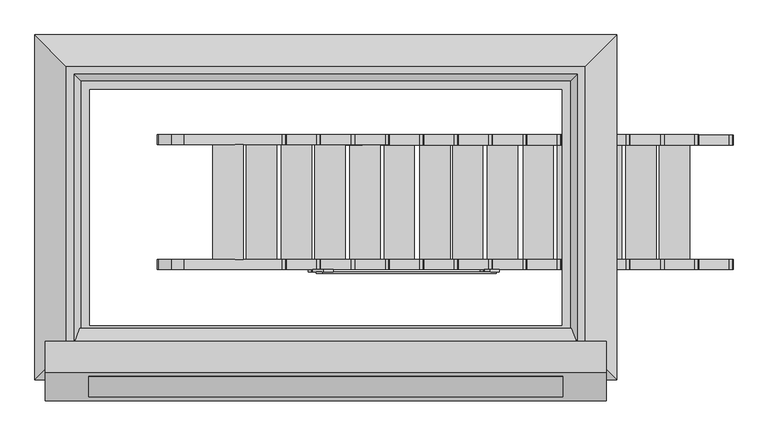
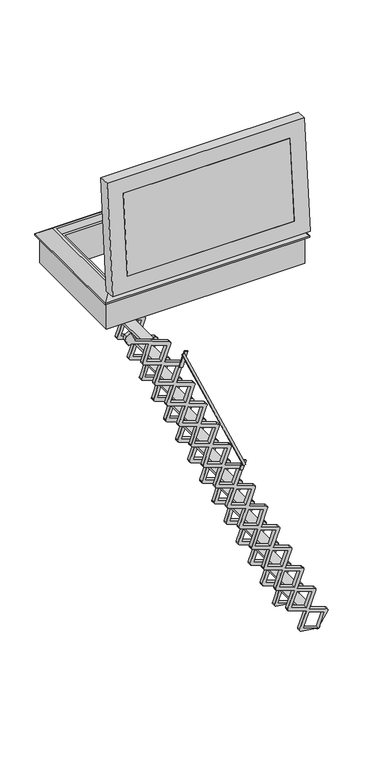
"""IFC4 building model written with IfcOpenShell, lengths in millimetres: proxy geometry, 3_Topaccess_dakluik_1400x700_Staka : 1400x 700 Scissor stair."""

from ifc_helpers import new_model, si_unit, point, frame, frame_2d, origin, place, context, project, spatial, polyline, circle_curve, trimmed, segment, composite_curve, outline, extrude, faceted_brep, source, transform, mapped, element, save


def generic_models_53a43412(model_context):
    return source(origin(), model_context, "Body", "SolidModel", [
        extrude(outline(polyline([(157.4162525, 319.5637489), (247.4162525, 319.5637489), (247.4162525, -20.4362511), (157.4162525, -20.4362511), (157.4162525, 319.5637489)])), frame((0.0, 0.0, -3347.829623), z_axis=(0.0, 0.0, 1.0), x_axis=(1.0, 0.0, 0.0)), (0.0, 0.0, 1.0), 20.0),
        extrude(outline(polyline([(58.100961, 319.5637489), (148.100961, 319.5637489), (148.100961, -20.4362511), (58.100961, -20.4362511), (58.100961, 319.5637489)])), frame((0.0, 0.0, -3134.8472931), z_axis=(0.0, 0.0, 1.0), x_axis=(1.0, 0.0, 0.0)), (0.0, 0.0, 1.0), 20.0),
        extrude(outline(polyline([(-43.3274218, 319.5637489), (46.6725782, 319.5637489), (46.6725782, -20.4362511), (-43.3274218, -20.4362511), (-43.3274218, 319.5637489)])), frame((0.0, 0.0, -2917.3334242), z_axis=(0.0, 0.0, 1.0), x_axis=(1.0, 0.0, 0.0)), (0.0, 0.0, 1.0), 20.0),
        extrude(outline(polyline([(-144.7558046, 319.5637489), (-54.7558046, 319.5637489), (-54.7558046, -20.4362511), (-144.7558046, -20.4362511), (-144.7558046, 319.5637489)])), frame((0.0, 0.0, -2699.8195553), z_axis=(0.0, 0.0, 1.0), x_axis=(1.0, 0.0, 0.0)), (0.0, 0.0, 1.0), 20.0),
        extrude(outline(polyline([(-246.1841874, 319.5637489), (-156.1841874, 319.5637489), (-156.1841874, -20.4362511), (-246.1841874, -20.4362511), (-246.1841874, 319.5637489)])), frame((0.0, 0.0, -2482.3056864), z_axis=(0.0, 0.0, 1.0), x_axis=(1.0, 0.0, 0.0)), (0.0, 0.0, 1.0), 20.0),
        extrude(outline(polyline([(-351.8387529, 319.5637489), (-261.8387529, 319.5637489), (-261.8387529, -20.4362511), (-351.8387529, -20.4362511), (-351.8387529, 319.5637489)])), frame((0.0, 0.0, -2255.7287396), z_axis=(0.0, 0.0, 1.0), x_axis=(1.0, 0.0, 0.0)), (0.0, 0.0, 1.0), 20.0),
        extrude(outline(polyline([(-455.380227, 319.5637489), (-365.380227, 319.5637489), (-365.380227, -20.4362511), (-455.380227, -20.4362511), (-455.380227, 319.5637489)])), frame((0.0, 0.0, -2033.6833318), z_axis=(0.0, 0.0, 1.0), x_axis=(1.0, 0.0, 0.0)), (0.0, 0.0, 1.0), 20.0),
        extrude(outline(polyline([(-552.5824272, 319.5637489), (-462.5824272, 319.5637489), (-462.5824272, -20.4362511), (-552.5824272, -20.4362511), (-552.5824272, 319.5637489)])), frame((0.0, 0.0, -1825.2325408), z_axis=(0.0, 0.0, 1.0), x_axis=(1.0, 0.0, 0.0)), (0.0, 0.0, 1.0), 20.0),
        extrude(outline(polyline([(-658.2369926, 319.5637489), (-568.2369926, 319.5637489), (-568.2369926, -20.4362511), (-658.2369926, -20.4362511), (-658.2369926, 319.5637489)])), frame((0.0, 0.0, -1598.655594), z_axis=(0.0, 0.0, 1.0), x_axis=(1.0, 0.0, 0.0)), (0.0, 0.0, 1.0), 20.0),
        extrude(outline(polyline([(-759.6653754, 319.5637489), (-669.6653754, 319.5637489), (-669.6653754, -20.4362511), (-759.6653754, -20.4362511), (-759.6653754, 319.5637489)])), frame((0.0, 0.0, -1381.1417252), z_axis=(0.0, 0.0, 1.0), x_axis=(1.0, 0.0, 0.0)), (0.0, 0.0, 1.0), 20.0),
        extrude(outline(polyline([(-863.2068496, 319.5637489), (-773.2068496, 319.5637489), (-773.2068496, -20.4362511), (-863.2068496, -20.4362511), (-863.2068496, 319.5637489)])), frame((0.0, 0.0, -1159.0963173), z_axis=(0.0, 0.0, 1.0), x_axis=(1.0, 0.0, 0.0)), (0.0, 0.0, 1.0), 20.0),
        extrude(outline(polyline([(-962.5221411, 319.5637489), (-872.5221411, 319.5637489), (-872.5221411, -20.4362511), (-962.5221411, -20.4362511), (-962.5221411, 319.5637489)])), frame((0.0, 0.0, -946.1139874), z_axis=(0.0, 0.0, 1.0), x_axis=(1.0, 0.0, 0.0)), (0.0, 0.0, 1.0), 20.0),
        extrude(outline(polyline([(-1165.3789067, 319.5637489), (-1075.3789067, 319.5637489), (-1075.3789067, -20.4362511), (-1165.3789067, -20.4362511), (-1165.3789067, 319.5637489)])), frame((0.0, 0.0, -511.0862496), z_axis=(0.0, 0.0, 1.0), x_axis=(1.0, 0.0, 0.0)), (0.0, 0.0, 1.0), 20.0),
        extrude(outline(polyline([(-1848.5794937, -325.9739408), (-679.4224194, -841.79284), (-687.8747846, -859.9189958), (-1857.031859, -344.1000966), (-1848.5794937, -325.9739408)])), frame((0.0, -61.8125013, 0.0), z_axis=(0.0, 1.0, 0.0), x_axis=(0.0, 0.0, 1.0)), (0.0, 0.0, 1.0), 4.2391265),
        extrude(outline(polyline([(-1818.2781029, -316.9787511), (-1808.0174986, -345.1695297), (-1852.2079918, -361.2535539), (-1859.1481195, -363.7795537), (-1884.6912157, -373.0764804), (-1894.95182, -344.8857018), (-1818.2781029, -316.9787511)])), frame((0.0, -57.5733748, 0.0), z_axis=(0.0, 1.0, 0.0), x_axis=(0.0, 0.0, 1.0)), (0.0, 0.0, 1.0), 7.1371237),
        extrude(outline(polyline([(-675.6712162, -808.5021805), (-665.4106119, -836.6929592), (-759.322906, -870.8742389), (-766.2630337, -873.4002387), (-791.8061299, -882.6971654), (-802.0667342, -854.5063868), (-675.6712162, -808.5021805)])), frame((0.0, -57.5733748, 0.0), z_axis=(0.0, 1.0, 0.0), x_axis=(0.0, 0.0, 1.0)), (0.0, 0.0, 1.0), 7.1371237),
        extrude(outline(polyline([(-1066.0636152, 319.5637489), (-976.0636152, 319.5637489), (-976.0636152, -20.4362511), (-1066.0636152, -20.4362511), (-1066.0636152, 319.5637489)])), frame((0.0, 0.0, -724.0685796), z_axis=(0.0, 0.0, 1.0), x_axis=(1.0, 0.0, 0.0)), (0.0, 0.0, 1.0), 20.0),
        extrude(outline(composite_curve([segment(polyline([(-399.9923074, -1331.2697623), (-459.6764529, -1303.4385882), (-448.5210209, -1279.5156871), (-505.7459893, -1133.1947877), (-651.1637299, -1186.1225168)]), True, "CONTINUOUS"), segment(trimmed(circle_curve(frame_2d((-657.6170384, -1168.3921976)), 18.8682116), [point((-651.1637299, -1186.1225168))], [point((-662.9064638, -1186.5038344))], False, "CARTESIAN"), True, "CONTINUOUS"), segment(trimmed(circle_curve(frame_2d((-653.5752288, -1170.1045216)), 18.8682116), [point((-662.9064638, -1186.5038344))], [point((-671.305548, -1176.55783))], False, "CARTESIAN"), True, "CONTINUOUS"), segment(polyline([(-671.305548, -1176.55783), (-724.2432758, -1031.1126182), (-869.8961323, -1084.1259225)]), True, "CONTINUOUS"), segment(trimmed(circle_curve(frame_2d((-876.3494407, -1066.3956033)), 18.8682116), [point((-869.8961323, -1084.1259225))], [point((-881.6388662, -1084.5072401))], False, "CARTESIAN"), True, "CONTINUOUS"), segment(trimmed(circle_curve(frame_2d((-872.3076312, -1068.1079273)), 18.8682116), [point((-881.6388662, -1084.5072401))], [point((-890.0379504, -1074.5612357))], False, "CARTESIAN"), True, "CONTINUOUS"), segment(polyline([(-890.0379504, -1074.5612357), (-942.890103, -929.3511398), (-1088.3078436, -982.2788689)]), True, "CONTINUOUS"), segment(trimmed(circle_curve(frame_2d((-1094.761152, -964.5485497)), 18.8682116), [point((-1088.3078436, -982.2788689))], [point((-1100.0505775, -982.6601865))], False, "CARTESIAN"), True, "CONTINUOUS"), segment(trimmed(circle_curve(frame_2d((-1090.7193424, -966.2608737)), 18.8682116), [point((-1100.0505775, -982.6601865))], [point((-1108.4496616, -972.7141821))], False, "CARTESIAN"), True, "CONTINUOUS"), segment(polyline([(-1108.4496616, -972.7141821), (-1161.3873894, -827.2689703), (-1307.0402459, -880.2822746)]), True, "CONTINUOUS"), segment(trimmed(circle_curve(frame_2d((-1313.4935544, -862.5519554)), 18.8682116), [point((-1307.0402459, -880.2822746))], [point((-1318.7829798, -880.6635922))], False, "CARTESIAN"), True, "CONTINUOUS"), segment(trimmed(circle_curve(frame_2d((-1309.4517448, -864.2642794)), 18.8682116), [point((-1318.7829798, -880.6635922))], [point((-1327.182064, -870.7175878))], False, "CARTESIAN"), True, "CONTINUOUS"), segment(polyline([(-1327.182064, -870.7175878), (-1380.0342166, -725.5074919), (-1525.4519572, -778.435221)]), True, "CONTINUOUS"), segment(trimmed(circle_curve(frame_2d((-1531.9052656, -760.7049018)), 18.8682116), [point((-1525.4519572, -778.435221))], [point((-1537.1946911, -778.8165386))], False, "CARTESIAN"), True, "CONTINUOUS"), segment(trimmed(circle_curve(frame_2d((-1527.863456, -762.4172258)), 18.8682116), [point((-1537.1946911, -778.8165386))], [point((-1545.5937752, -768.8705342))], False, "CARTESIAN"), True, "CONTINUOUS"), segment(polyline([(-1545.5937752, -768.8705342), (-1598.5809089, -623.2895809), (-1744.3695069, -676.3522911)]), True, "CONTINUOUS"), segment(trimmed(circle_curve(frame_2d((-1750.8228153, -658.6219719)), 18.8682116), [point((-1744.3695069, -676.3522911))], [point((-1756.1122408, -676.7336086))], False, "CARTESIAN"), True, "CONTINUOUS"), segment(trimmed(circle_curve(frame_2d((-1746.7810058, -660.3342958)), 18.8682116), [point((-1756.1122408, -676.7336086))], [point((-1764.5113249, -666.7876043))], False, "CARTESIAN"), True, "CONTINUOUS"), segment(polyline([(-1764.5113249, -666.7876043), (-1817.3634776, -521.5775084), (-1962.7812181, -574.5052375)]), True, "CONTINUOUS"), segment(trimmed(circle_curve(frame_2d((-1969.2345266, -556.7749183)), 18.8682116), [point((-1962.7812181, -574.5052375))], [point((-1974.523952, -574.8865551))], False, "CARTESIAN"), True, "CONTINUOUS"), segment(trimmed(circle_curve(frame_2d((-1965.192717, -558.4872423)), 18.8682116), [point((-1974.523952, -574.8865551))], [point((-1982.9230362, -564.9405507))], False, "CARTESIAN"), True, "CONTINUOUS"), segment(polyline([(-1982.9230362, -564.9405507), (-2035.860764, -419.4953389), (-2181.5136205, -472.5086432)]), True, "CONTINUOUS"), segment(trimmed(circle_curve(frame_2d((-2187.966929, -454.778324)), 18.8682116), [point((-2181.5136205, -472.5086432))], [point((-2193.2563544, -472.8899607))], False, "CARTESIAN"), True, "CONTINUOUS"), segment(trimmed(circle_curve(frame_2d((-2183.9251194, -456.4906479)), 18.8682116), [point((-2193.2563544, -472.8899607))], [point((-2201.6554386, -462.9439564))], False, "CARTESIAN"), True, "CONTINUOUS"), segment(polyline([(-2201.6554386, -462.9439564), (-2254.5075912, -317.7338605), (-2399.9253318, -370.6615896)]), True, "CONTINUOUS"), segment(trimmed(circle_curve(frame_2d((-2406.3786402, -352.9312704)), 18.8682116), [point((-2399.9253318, -370.6615896))], [point((-2411.6680657, -371.0429072))], False, "CARTESIAN"), True, "CONTINUOUS"), segment(trimmed(circle_curve(frame_2d((-2402.3368306, -354.6435944)), 18.8682116), [point((-2411.6680657, -371.0429072))], [point((-2420.0671498, -361.0969028))], False, "CARTESIAN"), True, "CONTINUOUS"), segment(polyline([(-2420.0671498, -361.0969028), (-2473.0048776, -215.651691), (-2618.6577342, -268.6649953)]), True, "CONTINUOUS"), segment(trimmed(circle_curve(frame_2d((-2625.1110426, -250.9346761)), 18.8682116), [point((-2618.6577342, -268.6649953))], [point((-2630.4004681, -269.0463128))], False, "CARTESIAN"), True, "CONTINUOUS"), segment(trimmed(circle_curve(frame_2d((-2621.069233, -252.6470001)), 18.8682116), [point((-2630.4004681, -269.0463128))], [point((-2638.7995522, -259.1003085))], False, "CARTESIAN"), True, "CONTINUOUS"), segment(polyline([(-2638.7995522, -259.1003085), (-2691.6517048, -113.8902126), (-2837.0694454, -166.8179417)]), True, "CONTINUOUS"), segment(trimmed(circle_curve(frame_2d((-2843.5227538, -149.0876225)), 18.8682116), [point((-2837.0694454, -166.8179417))], [point((-2848.8121793, -167.1992593))], False, "CARTESIAN"), True, "CONTINUOUS"), segment(trimmed(circle_curve(frame_2d((-2839.4809442, -150.7999465)), 18.8682116), [point((-2848.8121793, -167.1992593))], [point((-2857.2112634, -157.2532549))], False, "CARTESIAN"), True, "CONTINUOUS"), segment(polyline([(-2857.2112634, -157.2532549), (-2910.1489912, -11.8080431), (-3055.8018478, -64.8213474)]), True, "CONTINUOUS"), segment(trimmed(circle_curve(frame_2d((-3062.2551562, -47.0910282)), 18.8682116), [point((-3055.8018478, -64.8213474))], [point((-3067.5445817, -65.2026649))], False, "CARTESIAN"), True, "CONTINUOUS"), segment(trimmed(circle_curve(frame_2d((-3058.2133466, -48.8033522)), 18.8682116), [point((-3067.5445817, -65.2026649))], [point((-3075.9436658, -55.2566606))], False, "CARTESIAN"), True, "CONTINUOUS"), segment(polyline([(-3075.9436658, -55.2566606), (-3128.7958184, 89.9534353), (-3274.213559, 37.0257062)]), True, "CONTINUOUS"), segment(trimmed(circle_curve(frame_2d((-3280.6668674, 54.7560254)), 18.8682116), [point((-3274.213559, 37.0257062))], [point((-3285.9562929, 36.6443886))], False, "CARTESIAN"), True, "CONTINUOUS"), segment(trimmed(circle_curve(frame_2d((-3276.6250579, 53.0437014)), 18.8682116), [point((-3285.9562929, 36.6443886))], [point((-3294.355377, 46.590393))], False, "CARTESIAN"), True, "CONTINUOUS"), segment(polyline([(-3294.355377, 46.590393), (-3347.3308931, 192.1394272), (-3492.8799273, 139.1639111)]), True, "CONTINUOUS"), segment(trimmed(circle_curve(frame_2d((-3499.3332357, 156.8942303)), 18.8682116), [point((-3492.8799273, 139.1639111))], [point((-3505.8978359, 139.2048145))], False, "CARTESIAN"), True, "CONTINUOUS"), segment(trimmed(circle_curve(frame_2d((-3495.4234944, 154.8986852)), 18.8682116), [point((-3505.8978359, 139.2048145))], [point((-3513.1538135, 148.4453767))], False, "CARTESIAN"), True, "CONTINUOUS"), segment(polyline([(-3513.1538135, 148.4453767), (-3529.9146243, 277.1930025)]), True, "CONTINUOUS"), segment(trimmed(circle_curve(frame_2d((-3523.5753503, 290.7876193)), 15.0), [point((-3529.9146243, 277.1930025))], [point((-3535.6181892, 299.7302157))], False, "CARTESIAN"), True, "CONTINUOUS"), segment(trimmed(circle_curve(frame_2d((-3523.5753503, 290.7876193)), 15.0), [point((-3535.6181892, 299.7302157))], [point((-3517.0955362, 304.3158124))], False, "CARTESIAN"), True, "CONTINUOUS"), segment(polyline([(-3517.0955362, 304.3158124), (-3407.8654274, 375.0348446)]), True, "CONTINUOUS"), segment(trimmed(circle_curve(frame_2d((-3400.8799024, 356.8502773)), 19.4801449), [point((-3407.8654274, 375.0348446))], [point((-3394.9966002, 375.4207593))], False, "CARTESIAN"), True, "CONTINUOUS"), segment(trimmed(circle_curve(frame_2d((-3405.5505363, 359.0532978)), 19.4750959), [point((-3394.9966002, 375.4207593))], [point((-3387.1203401, 365.3467253))], False, "CARTESIAN"), True, "CONTINUOUS"), segment(polyline([(-3387.1203401, 365.3467253), (-3334.5679301, 219.5096897), (-3189.0702414, 272.9944476)]), True, "CONTINUOUS"), segment(trimmed(circle_curve(frame_2d((-3182.0445847, 254.830761)), 19.4750959), [point((-3189.0702414, 272.9944476))], [point((-3176.2903212, 273.4363465))], False, "CARTESIAN"), True, "CONTINUOUS"), segment(trimmed(circle_curve(frame_2d((-3186.734422, 256.9925998)), 19.4801449), [point((-3176.2903212, 273.4363465))], [point((-3168.3140263, 263.3301917))], False, "CARTESIAN"), True, "CONTINUOUS"), segment(polyline([(-3168.3140263, 263.3301917), (-3116.1562188, 117.6626362), (-2970.6585301, 171.147394)]), True, "CONTINUOUS"), segment(trimmed(circle_curve(frame_2d((-2963.6328735, 152.9837074)), 19.4750959), [point((-2970.6585301, 171.147394))], [point((-2957.87861, 171.589293))], False, "CARTESIAN"), True, "CONTINUOUS"), segment(trimmed(circle_curve(frame_2d((-2968.3227108, 155.1455462)), 19.4801449), [point((-2957.87861, 171.589293))], [point((-2949.9023151, 161.4831381))], False, "CARTESIAN"), True, "CONTINUOUS"), segment(polyline([(-2949.9023151, 161.4831381), (-2897.6598903, 15.5792614), (-2751.9261277, 69.1507997)]), True, "CONTINUOUS"), segment(trimmed(circle_curve(frame_2d((-2744.9004711, 50.9871131)), 19.4750959), [point((-2751.9261277, 69.1507997))], [point((-2739.1462076, 69.5926986))], False, "CARTESIAN"), True, "CONTINUOUS"), segment(trimmed(circle_curve(frame_2d((-2749.5903084, 53.1489519)), 19.4801449), [point((-2739.1462076, 69.5926986))], [point((-2731.1699127, 59.4865438))], False, "CARTESIAN"), True, "CONTINUOUS"), segment(polyline([(-2731.1699127, 59.4865438), (-2679.0121052, -86.1810117), (-2533.5144165, -32.6962539)]), True, "CONTINUOUS"), segment(trimmed(circle_curve(frame_2d((-2526.4887599, -50.8599405)), 19.4750959), [point((-2533.5144165, -32.6962539))], [point((-2520.7344964, -32.2543549))], False, "CARTESIAN"), True, "CONTINUOUS"), segment(trimmed(circle_curve(frame_2d((-2531.1785971, -48.6981017)), 19.4801449), [point((-2520.7344964, -32.2543549))], [point((-2512.7582015, -42.3605098))], False, "CARTESIAN"), True, "CONTINUOUS"), segment(polyline([(-2512.7582015, -42.3605098), (-2460.5157767, -188.2643865), (-2314.7820141, -134.6928482)]), True, "CONTINUOUS"), segment(trimmed(circle_curve(frame_2d((-2307.7563575, -152.8565348)), 19.4750959), [point((-2314.7820141, -134.6928482))], [point((-2302.002094, -134.2509493))], False, "CARTESIAN"), True, "CONTINUOUS"), segment(trimmed(circle_curve(frame_2d((-2312.4461947, -150.694696)), 19.4801449), [point((-2302.002094, -134.2509493))], [point((-2294.0257991, -144.3571041))], False, "CARTESIAN"), True, "CONTINUOUS"), segment(polyline([(-2294.0257991, -144.3571041), (-2241.8679916, -290.0246596), (-2096.3703029, -236.5399018)]), True, "CONTINUOUS"), segment(trimmed(circle_curve(frame_2d((-2089.3446463, -254.7035884)), 19.4750959), [point((-2096.3703029, -236.5399018))], [point((-2083.5903828, -236.0980028))], False, "CARTESIAN"), True, "CONTINUOUS"), segment(trimmed(circle_curve(frame_2d((-2094.0344835, -252.5417496)), 19.4801449), [point((-2083.5903828, -236.0980028))], [point((-2075.6140879, -246.2041576))], False, "CARTESIAN"), True, "CONTINUOUS"), segment(polyline([(-2075.6140879, -246.2041576), (-2023.3716631, -392.1080344), (-1877.6379005, -338.5364961)]), True, "CONTINUOUS"), segment(trimmed(circle_curve(frame_2d((-1870.6122439, -356.7001827)), 19.4750959), [point((-1877.6379005, -338.5364961))], [point((-1864.8579804, -338.0945972))], False, "CARTESIAN"), True, "CONTINUOUS"), segment(trimmed(circle_curve(frame_2d((-1875.3020811, -354.5383439)), 19.4801449), [point((-1864.8579804, -338.0945972))], [point((-1856.8816855, -348.200752))], False, "CARTESIAN"), True, "CONTINUOUS"), segment(polyline([(-1856.8816855, -348.200752), (-1804.723878, -493.8683075), (-1659.2261893, -440.3835497)]), True, "CONTINUOUS"), segment(trimmed(circle_curve(frame_2d((-1652.2005326, -458.5472363)), 19.4750959), [point((-1659.2261893, -440.3835497))], [point((-1646.4462691, -439.9416507))], False, "CARTESIAN"), True, "CONTINUOUS"), segment(trimmed(circle_curve(frame_2d((-1656.8903699, -456.3853975)), 19.4801449), [point((-1646.4462691, -439.9416507))], [point((-1638.4699743, -450.0478055))], False, "CARTESIAN"), True, "CONTINUOUS"), segment(polyline([(-1638.4699743, -450.0478055), (-1586.1786966, -596.0881196), (-1440.3086395, -542.4664796)]), True, "CONTINUOUS"), segment(trimmed(circle_curve(frame_2d((-1433.2829829, -560.6301662)), 19.4750959), [point((-1440.3086395, -542.4664796))], [point((-1427.5287194, -542.0245807))], False, "CARTESIAN"), True, "CONTINUOUS"), segment(trimmed(circle_curve(frame_2d((-1437.9728202, -558.4683274)), 19.4801449), [point((-1427.5287194, -542.0245807))], [point((-1419.5524245, -552.1307355))], False, "CARTESIAN"), True, "CONTINUOUS"), segment(polyline([(-1419.5524245, -552.1307355), (-1367.394617, -697.7982911), (-1221.8969283, -644.3135332)]), True, "CONTINUOUS"), segment(trimmed(circle_curve(frame_2d((-1214.8712717, -662.4772198)), 19.4750959), [point((-1221.8969283, -644.3135332))], [point((-1209.1170082, -643.8716343))], False, "CARTESIAN"), True, "CONTINUOUS"), segment(trimmed(circle_curve(frame_2d((-1219.5611089, -660.315381)), 19.4801449), [point((-1209.1170082, -643.8716343))], [point((-1201.1407133, -653.9777891))], False, "CARTESIAN"), True, "CONTINUOUS"), segment(polyline([(-1201.1407133, -653.9777891), (-1148.8982885, -799.8816658), (-1003.1645259, -746.3101275)]), True, "CONTINUOUS"), segment(trimmed(circle_curve(frame_2d((-996.1388693, -764.4738141)), 19.4750959), [point((-1003.1645259, -746.3101275))], [point((-990.3846058, -745.8682286))], False, "CARTESIAN"), True, "CONTINUOUS"), segment(trimmed(circle_curve(frame_2d((-1000.8287065, -762.3119753)), 19.4801449), [point((-990.3846058, -745.8682286))], [point((-982.4083109, -755.9743834))], False, "CARTESIAN"), True, "CONTINUOUS"), segment(polyline([(-982.4083109, -755.9743834), (-930.2505034, -901.641939), (-784.7528147, -848.1571811)]), True, "CONTINUOUS"), segment(trimmed(circle_curve(frame_2d((-777.7271581, -866.3208677)), 19.4750959), [point((-784.7528147, -848.1571811))], [point((-771.9728946, -847.7152822))], False, "CARTESIAN"), True, "CONTINUOUS"), segment(trimmed(circle_curve(frame_2d((-782.4169953, -864.1590289)), 19.4801449), [point((-771.9728946, -847.7152822))], [point((-763.9965997, -857.821437))], False, "CARTESIAN"), True, "CONTINUOUS"), segment(polyline([(-763.9965997, -857.821437), (-711.7541749, -1003.7253137), (-566.0204123, -950.1537754)]), True, "CONTINUOUS"), segment(trimmed(circle_curve(frame_2d((-558.9947557, -968.317462)), 19.4750959), [point((-566.0204123, -950.1537754))], [point((-553.2404922, -949.7118765))], False, "CARTESIAN"), True, "CONTINUOUS"), segment(trimmed(circle_curve(frame_2d((-563.6845929, -966.1556232)), 19.4801449), [point((-553.2404922, -949.7118765))], [point((-545.2641973, -959.8180313))], False, "CARTESIAN"), True, "CONTINUOUS"), segment(polyline([(-545.2641973, -959.8180313), (-431.6586243, -1250.3008412), (-353.0526957, -1286.9553876), (-371.3628379, -1326.2216144), (-399.9923074, -1331.2697623)]), True, "CONTINUOUS")], self_intersect=False), holes=[polyline([(-3410.9507418, 341.2410938), (-3534.9708957, 296.1014494), (-3489.8312512, 172.0812955), (-3365.8110974, 217.2209399), (-3410.9507418, 341.2410938)]), polyline([(-3192.2183394, 239.2444995), (-3316.2384933, 194.104855), (-3271.0988488, 70.0847012), (-3147.078695, 115.2243456), (-3192.2183394, 239.2444995)]), polyline([(-2973.8066282, 137.3974459), (-3097.8267821, 92.2578015), (-3052.6871376, -31.7623524), (-2928.6669837, 13.377292), (-2973.8066282, 137.3974459)]), polyline([(-2755.0742258, 35.4008516), (-2879.0943797, -9.7387929), (-2833.9547352, -133.7589467), (-2709.9345814, -88.6193023), (-2755.0742258, 35.4008516)]), polyline([(-2536.6625146, -66.446202), (-2660.6826685, -111.5858464), (-2615.543024, -235.6060003), (-2491.5228701, -190.4663558), (-2536.6625146, -66.446202)]), polyline([(-2317.9301122, -168.4427963), (-2441.9502661, -213.5824408), (-2396.8106216, -337.6025946), (-2272.7904677, -292.4629502), (-2317.9301122, -168.4427963)]), polyline([(-2099.518401, -270.2898499), (-2223.5385548, -315.4294943), (-2178.3989104, -439.4496482), (-2054.3787565, -394.3100037), (-2099.518401, -270.2898499)]), polyline([(-1880.7859986, -372.2864442), (-2004.8061524, -417.4260887), (-1959.666508, -541.4462425), (-1835.6463541, -496.3065981), (-1880.7859986, -372.2864442)]), polyline([(-1662.3742873, -474.1334978), (-1786.3944412, -519.2731422), (-1741.2547968, -643.2932961), (-1617.2346429, -598.1536516), (-1662.3742873, -474.1334978)]), polyline([(-1443.4567376, -576.2164277), (-1567.4768915, -621.3560722), (-1522.337247, -745.3762261), (-1398.3170931, -700.2365816), (-1443.4567376, -576.2164277)]), polyline([(-1225.0450264, -678.0634813), (-1349.0651802, -723.2031258), (-1303.9255358, -847.2232796), (-1179.9053819, -802.0836352), (-1225.0450264, -678.0634813)]), polyline([(-1006.312624, -780.0600756), (-1130.3327779, -825.1997201), (-1085.1931334, -949.219874), (-961.1729795, -904.0802295), (-1006.312624, -780.0600756)]), polyline([(-787.9009128, -881.9071292), (-911.9210666, -927.0467737), (-866.7814222, -1051.0669275), (-742.7612683, -1005.9272831), (-787.9009128, -881.9071292)]), polyline([(-569.1685104, -983.9037235), (-693.1886642, -1029.043368), (-648.0490198, -1153.0635219), (-524.0288659, -1107.9238774), (-569.1685104, -983.9037235)])]), frame((0.0, -50.4362511, 0.0), z_axis=(0.0, 1.0, 0.0), x_axis=(0.0, 0.0, 1.0)), (0.0, 0.0, 1.0), 30.0),
        extrude(outline(composite_curve([segment(polyline([(-399.9923074, -1331.2697623), (-459.6764529, -1303.4385882), (-448.5210209, -1279.5156871), (-505.7459893, -1133.1947877), (-651.1637299, -1186.1225168)]), True, "CONTINUOUS"), segment(trimmed(circle_curve(frame_2d((-657.6170384, -1168.3921976)), 18.8682116), [point((-651.1637299, -1186.1225168))], [point((-662.9064638, -1186.5038344))], False, "CARTESIAN"), True, "CONTINUOUS"), segment(trimmed(circle_curve(frame_2d((-653.5752288, -1170.1045216)), 18.8682116), [point((-662.9064638, -1186.5038344))], [point((-671.305548, -1176.55783))], False, "CARTESIAN"), True, "CONTINUOUS"), segment(polyline([(-671.305548, -1176.55783), (-724.2432758, -1031.1126182), (-869.8961323, -1084.1259225)]), True, "CONTINUOUS"), segment(trimmed(circle_curve(frame_2d((-876.3494407, -1066.3956033)), 18.8682116), [point((-869.8961323, -1084.1259225))], [point((-881.6388662, -1084.5072401))], False, "CARTESIAN"), True, "CONTINUOUS"), segment(trimmed(circle_curve(frame_2d((-872.3076312, -1068.1079273)), 18.8682116), [point((-881.6388662, -1084.5072401))], [point((-890.0379504, -1074.5612357))], False, "CARTESIAN"), True, "CONTINUOUS"), segment(polyline([(-890.0379504, -1074.5612357), (-942.890103, -929.3511398), (-1088.3078436, -982.2788689)]), True, "CONTINUOUS"), segment(trimmed(circle_curve(frame_2d((-1094.761152, -964.5485497)), 18.8682116), [point((-1088.3078436, -982.2788689))], [point((-1100.0505775, -982.6601865))], False, "CARTESIAN"), True, "CONTINUOUS"), segment(trimmed(circle_curve(frame_2d((-1090.7193424, -966.2608737)), 18.8682116), [point((-1100.0505775, -982.6601865))], [point((-1108.4496616, -972.7141821))], False, "CARTESIAN"), True, "CONTINUOUS"), segment(polyline([(-1108.4496616, -972.7141821), (-1161.3873894, -827.2689703), (-1307.0402459, -880.2822746)]), True, "CONTINUOUS"), segment(trimmed(circle_curve(frame_2d((-1313.4935544, -862.5519554)), 18.8682116), [point((-1307.0402459, -880.2822746))], [point((-1318.7829798, -880.6635922))], False, "CARTESIAN"), True, "CONTINUOUS"), segment(trimmed(circle_curve(frame_2d((-1309.4517448, -864.2642794)), 18.8682116), [point((-1318.7829798, -880.6635922))], [point((-1327.182064, -870.7175878))], False, "CARTESIAN"), True, "CONTINUOUS"), segment(polyline([(-1327.182064, -870.7175878), (-1380.0342166, -725.5074919), (-1525.4519572, -778.435221)]), True, "CONTINUOUS"), segment(trimmed(circle_curve(frame_2d((-1531.9052656, -760.7049018)), 18.8682116), [point((-1525.4519572, -778.435221))], [point((-1537.1946911, -778.8165386))], False, "CARTESIAN"), True, "CONTINUOUS"), segment(trimmed(circle_curve(frame_2d((-1527.863456, -762.4172258)), 18.8682116), [point((-1537.1946911, -778.8165386))], [point((-1545.5937752, -768.8705342))], False, "CARTESIAN"), True, "CONTINUOUS"), segment(polyline([(-1545.5937752, -768.8705342), (-1598.5809089, -623.2895809), (-1744.3695069, -676.3522911)]), True, "CONTINUOUS"), segment(trimmed(circle_curve(frame_2d((-1750.8228153, -658.6219719)), 18.8682116), [point((-1744.3695069, -676.3522911))], [point((-1756.1122408, -676.7336086))], False, "CARTESIAN"), True, "CONTINUOUS"), segment(trimmed(circle_curve(frame_2d((-1746.7810058, -660.3342958)), 18.8682116), [point((-1756.1122408, -676.7336086))], [point((-1764.5113249, -666.7876043))], False, "CARTESIAN"), True, "CONTINUOUS"), segment(polyline([(-1764.5113249, -666.7876043), (-1817.3634776, -521.5775084), (-1962.7812181, -574.5052375)]), True, "CONTINUOUS"), segment(trimmed(circle_curve(frame_2d((-1969.2345266, -556.7749183)), 18.8682116), [point((-1962.7812181, -574.5052375))], [point((-1974.523952, -574.8865551))], False, "CARTESIAN"), True, "CONTINUOUS"), segment(trimmed(circle_curve(frame_2d((-1965.192717, -558.4872423)), 18.8682116), [point((-1974.523952, -574.8865551))], [point((-1982.9230362, -564.9405507))], False, "CARTESIAN"), True, "CONTINUOUS"), segment(polyline([(-1982.9230362, -564.9405507), (-2035.860764, -419.4953389), (-2181.5136205, -472.5086432)]), True, "CONTINUOUS"), segment(trimmed(circle_curve(frame_2d((-2187.966929, -454.778324)), 18.8682116), [point((-2181.5136205, -472.5086432))], [point((-2193.2563544, -472.8899607))], False, "CARTESIAN"), True, "CONTINUOUS"), segment(trimmed(circle_curve(frame_2d((-2183.9251194, -456.4906479)), 18.8682116), [point((-2193.2563544, -472.8899607))], [point((-2201.6554386, -462.9439564))], False, "CARTESIAN"), True, "CONTINUOUS"), segment(polyline([(-2201.6554386, -462.9439564), (-2254.5075912, -317.7338605), (-2399.9253318, -370.6615896)]), True, "CONTINUOUS"), segment(trimmed(circle_curve(frame_2d((-2406.3786402, -352.9312704)), 18.8682116), [point((-2399.9253318, -370.6615896))], [point((-2411.6680657, -371.0429072))], False, "CARTESIAN"), True, "CONTINUOUS"), segment(trimmed(circle_curve(frame_2d((-2402.3368306, -354.6435944)), 18.8682116), [point((-2411.6680657, -371.0429072))], [point((-2420.0671498, -361.0969028))], False, "CARTESIAN"), True, "CONTINUOUS"), segment(polyline([(-2420.0671498, -361.0969028), (-2473.0048776, -215.651691), (-2618.6577342, -268.6649953)]), True, "CONTINUOUS"), segment(trimmed(circle_curve(frame_2d((-2625.1110426, -250.9346761)), 18.8682116), [point((-2618.6577342, -268.6649953))], [point((-2630.4004681, -269.0463128))], False, "CARTESIAN"), True, "CONTINUOUS"), segment(trimmed(circle_curve(frame_2d((-2621.069233, -252.6470001)), 18.8682116), [point((-2630.4004681, -269.0463128))], [point((-2638.7995522, -259.1003085))], False, "CARTESIAN"), True, "CONTINUOUS"), segment(polyline([(-2638.7995522, -259.1003085), (-2691.6517048, -113.8902126), (-2837.0694454, -166.8179417)]), True, "CONTINUOUS"), segment(trimmed(circle_curve(frame_2d((-2843.5227538, -149.0876225)), 18.8682116), [point((-2837.0694454, -166.8179417))], [point((-2848.8121793, -167.1992593))], False, "CARTESIAN"), True, "CONTINUOUS"), segment(trimmed(circle_curve(frame_2d((-2839.4809442, -150.7999465)), 18.8682116), [point((-2848.8121793, -167.1992593))], [point((-2857.2112634, -157.2532549))], False, "CARTESIAN"), True, "CONTINUOUS"), segment(polyline([(-2857.2112634, -157.2532549), (-2910.1489912, -11.8080431), (-3055.8018478, -64.8213474)]), True, "CONTINUOUS"), segment(trimmed(circle_curve(frame_2d((-3062.2551562, -47.0910282)), 18.8682116), [point((-3055.8018478, -64.8213474))], [point((-3067.5445817, -65.2026649))], False, "CARTESIAN"), True, "CONTINUOUS"), segment(trimmed(circle_curve(frame_2d((-3058.2133466, -48.8033522)), 18.8682116), [point((-3067.5445817, -65.2026649))], [point((-3075.9436658, -55.2566606))], False, "CARTESIAN"), True, "CONTINUOUS"), segment(polyline([(-3075.9436658, -55.2566606), (-3128.7958184, 89.9534353), (-3274.213559, 37.0257062)]), True, "CONTINUOUS"), segment(trimmed(circle_curve(frame_2d((-3280.6668674, 54.7560254)), 18.8682116), [point((-3274.213559, 37.0257062))], [point((-3285.9562929, 36.6443886))], False, "CARTESIAN"), True, "CONTINUOUS"), segment(trimmed(circle_curve(frame_2d((-3276.6250579, 53.0437014)), 18.8682116), [point((-3285.9562929, 36.6443886))], [point((-3294.355377, 46.590393))], False, "CARTESIAN"), True, "CONTINUOUS"), segment(polyline([(-3294.355377, 46.590393), (-3347.3308931, 192.1394272), (-3492.8799273, 139.1639111)]), True, "CONTINUOUS"), segment(trimmed(circle_curve(frame_2d((-3499.3332357, 156.8942303)), 18.8682116), [point((-3492.8799273, 139.1639111))], [point((-3505.8978359, 139.2048145))], False, "CARTESIAN"), True, "CONTINUOUS"), segment(trimmed(circle_curve(frame_2d((-3495.4234944, 154.8986852)), 18.8682116), [point((-3505.8978359, 139.2048145))], [point((-3513.1538135, 148.4453767))], False, "CARTESIAN"), True, "CONTINUOUS"), segment(polyline([(-3513.1538135, 148.4453767), (-3529.9146243, 277.1930025)]), True, "CONTINUOUS"), segment(trimmed(circle_curve(frame_2d((-3523.5753503, 290.7876193)), 15.0), [point((-3529.9146243, 277.1930025))], [point((-3535.6181892, 299.7302157))], False, "CARTESIAN"), True, "CONTINUOUS"), segment(trimmed(circle_curve(frame_2d((-3523.5753503, 290.7876193)), 15.0), [point((-3535.6181892, 299.7302157))], [point((-3517.0955362, 304.3158124))], False, "CARTESIAN"), True, "CONTINUOUS"), segment(polyline([(-3517.0955362, 304.3158124), (-3407.8654274, 375.0348446)]), True, "CONTINUOUS"), segment(trimmed(circle_curve(frame_2d((-3400.8799024, 356.8502773)), 19.4801449), [point((-3407.8654274, 375.0348446))], [point((-3394.9966002, 375.4207593))], False, "CARTESIAN"), True, "CONTINUOUS"), segment(trimmed(circle_curve(frame_2d((-3405.5505363, 359.0532978)), 19.4750959), [point((-3394.9966002, 375.4207593))], [point((-3387.1203401, 365.3467253))], False, "CARTESIAN"), True, "CONTINUOUS"), segment(polyline([(-3387.1203401, 365.3467253), (-3334.5679301, 219.5096897), (-3189.0702414, 272.9944476)]), True, "CONTINUOUS"), segment(trimmed(circle_curve(frame_2d((-3182.0445847, 254.830761)), 19.4750959), [point((-3189.0702414, 272.9944476))], [point((-3176.2903212, 273.4363465))], False, "CARTESIAN"), True, "CONTINUOUS"), segment(trimmed(circle_curve(frame_2d((-3186.734422, 256.9925998)), 19.4801449), [point((-3176.2903212, 273.4363465))], [point((-3168.3140263, 263.3301917))], False, "CARTESIAN"), True, "CONTINUOUS"), segment(polyline([(-3168.3140263, 263.3301917), (-3116.1562188, 117.6626362), (-2970.6585301, 171.147394)]), True, "CONTINUOUS"), segment(trimmed(circle_curve(frame_2d((-2963.6328735, 152.9837074)), 19.4750959), [point((-2970.6585301, 171.147394))], [point((-2957.87861, 171.589293))], False, "CARTESIAN"), True, "CONTINUOUS"), segment(trimmed(circle_curve(frame_2d((-2968.3227108, 155.1455462)), 19.4801449), [point((-2957.87861, 171.589293))], [point((-2949.9023151, 161.4831381))], False, "CARTESIAN"), True, "CONTINUOUS"), segment(polyline([(-2949.9023151, 161.4831381), (-2897.6598903, 15.5792614), (-2751.9261277, 69.1507997)]), True, "CONTINUOUS"), segment(trimmed(circle_curve(frame_2d((-2744.9004711, 50.9871131)), 19.4750959), [point((-2751.9261277, 69.1507997))], [point((-2739.1462076, 69.5926986))], False, "CARTESIAN"), True, "CONTINUOUS"), segment(trimmed(circle_curve(frame_2d((-2749.5903084, 53.1489519)), 19.4801449), [point((-2739.1462076, 69.5926986))], [point((-2731.1699127, 59.4865438))], False, "CARTESIAN"), True, "CONTINUOUS"), segment(polyline([(-2731.1699127, 59.4865438), (-2679.0121052, -86.1810117), (-2533.5144165, -32.6962539)]), True, "CONTINUOUS"), segment(trimmed(circle_curve(frame_2d((-2526.4887599, -50.8599405)), 19.4750959), [point((-2533.5144165, -32.6962539))], [point((-2520.7344964, -32.2543549))], False, "CARTESIAN"), True, "CONTINUOUS"), segment(trimmed(circle_curve(frame_2d((-2531.1785971, -48.6981017)), 19.4801449), [point((-2520.7344964, -32.2543549))], [point((-2512.7582015, -42.3605098))], False, "CARTESIAN"), True, "CONTINUOUS"), segment(polyline([(-2512.7582015, -42.3605098), (-2460.5157767, -188.2643865), (-2314.7820141, -134.6928482)]), True, "CONTINUOUS"), segment(trimmed(circle_curve(frame_2d((-2307.7563575, -152.8565348)), 19.4750959), [point((-2314.7820141, -134.6928482))], [point((-2302.002094, -134.2509493))], False, "CARTESIAN"), True, "CONTINUOUS"), segment(trimmed(circle_curve(frame_2d((-2312.4461947, -150.694696)), 19.4801449), [point((-2302.002094, -134.2509493))], [point((-2294.0257991, -144.3571041))], False, "CARTESIAN"), True, "CONTINUOUS"), segment(polyline([(-2294.0257991, -144.3571041), (-2241.8679916, -290.0246596), (-2096.3703029, -236.5399018)]), True, "CONTINUOUS"), segment(trimmed(circle_curve(frame_2d((-2089.3446463, -254.7035884)), 19.4750959), [point((-2096.3703029, -236.5399018))], [point((-2083.5903828, -236.0980028))], False, "CARTESIAN"), True, "CONTINUOUS"), segment(trimmed(circle_curve(frame_2d((-2094.0344835, -252.5417496)), 19.4801449), [point((-2083.5903828, -236.0980028))], [point((-2075.6140879, -246.2041576))], False, "CARTESIAN"), True, "CONTINUOUS"), segment(polyline([(-2075.6140879, -246.2041576), (-2023.3716631, -392.1080344), (-1877.6379005, -338.5364961)]), True, "CONTINUOUS"), segment(trimmed(circle_curve(frame_2d((-1870.6122439, -356.7001827)), 19.4750959), [point((-1877.6379005, -338.5364961))], [point((-1864.8579804, -338.0945972))], False, "CARTESIAN"), True, "CONTINUOUS"), segment(trimmed(circle_curve(frame_2d((-1875.3020811, -354.5383439)), 19.4801449), [point((-1864.8579804, -338.0945972))], [point((-1856.8816855, -348.200752))], False, "CARTESIAN"), True, "CONTINUOUS"), segment(polyline([(-1856.8816855, -348.200752), (-1804.723878, -493.8683075), (-1659.2261893, -440.3835497)]), True, "CONTINUOUS"), segment(trimmed(circle_curve(frame_2d((-1652.2005326, -458.5472363)), 19.4750959), [point((-1659.2261893, -440.3835497))], [point((-1646.4462691, -439.9416507))], False, "CARTESIAN"), True, "CONTINUOUS"), segment(trimmed(circle_curve(frame_2d((-1656.8903699, -456.3853975)), 19.4801449), [point((-1646.4462691, -439.9416507))], [point((-1638.4699743, -450.0478055))], False, "CARTESIAN"), True, "CONTINUOUS"), segment(polyline([(-1638.4699743, -450.0478055), (-1586.1786966, -596.0881196), (-1440.3086395, -542.4664796)]), True, "CONTINUOUS"), segment(trimmed(circle_curve(frame_2d((-1433.2829829, -560.6301662)), 19.4750959), [point((-1440.3086395, -542.4664796))], [point((-1427.5287194, -542.0245807))], False, "CARTESIAN"), True, "CONTINUOUS"), segment(trimmed(circle_curve(frame_2d((-1437.9728202, -558.4683274)), 19.4801449), [point((-1427.5287194, -542.0245807))], [point((-1419.5524245, -552.1307355))], False, "CARTESIAN"), True, "CONTINUOUS"), segment(polyline([(-1419.5524245, -552.1307355), (-1367.394617, -697.7982911), (-1221.8969283, -644.3135332)]), True, "CONTINUOUS"), segment(trimmed(circle_curve(frame_2d((-1214.8712717, -662.4772198)), 19.4750959), [point((-1221.8969283, -644.3135332))], [point((-1209.1170082, -643.8716343))], False, "CARTESIAN"), True, "CONTINUOUS"), segment(trimmed(circle_curve(frame_2d((-1219.5611089, -660.315381)), 19.4801449), [point((-1209.1170082, -643.8716343))], [point((-1201.1407133, -653.9777891))], False, "CARTESIAN"), True, "CONTINUOUS"), segment(polyline([(-1201.1407133, -653.9777891), (-1148.8982885, -799.8816658), (-1003.1645259, -746.3101275)]), True, "CONTINUOUS"), segment(trimmed(circle_curve(frame_2d((-996.1388693, -764.4738141)), 19.4750959), [point((-1003.1645259, -746.3101275))], [point((-990.3846058, -745.8682286))], False, "CARTESIAN"), True, "CONTINUOUS"), segment(trimmed(circle_curve(frame_2d((-1000.8287065, -762.3119753)), 19.4801449), [point((-990.3846058, -745.8682286))], [point((-982.4083109, -755.9743834))], False, "CARTESIAN"), True, "CONTINUOUS"), segment(polyline([(-982.4083109, -755.9743834), (-930.2505034, -901.641939), (-784.7528147, -848.1571811)]), True, "CONTINUOUS"), segment(trimmed(circle_curve(frame_2d((-777.7271581, -866.3208677)), 19.4750959), [point((-784.7528147, -848.1571811))], [point((-771.9728946, -847.7152822))], False, "CARTESIAN"), True, "CONTINUOUS"), segment(trimmed(circle_curve(frame_2d((-782.4169953, -864.1590289)), 19.4801449), [point((-771.9728946, -847.7152822))], [point((-763.9965997, -857.821437))], False, "CARTESIAN"), True, "CONTINUOUS"), segment(polyline([(-763.9965997, -857.821437), (-711.7541749, -1003.7253137), (-566.0204123, -950.1537754)]), True, "CONTINUOUS"), segment(trimmed(circle_curve(frame_2d((-558.9947557, -968.317462)), 19.4750959), [point((-566.0204123, -950.1537754))], [point((-553.2404922, -949.7118765))], False, "CARTESIAN"), True, "CONTINUOUS"), segment(trimmed(circle_curve(frame_2d((-563.6845929, -966.1556232)), 19.4801449), [point((-553.2404922, -949.7118765))], [point((-545.2641973, -959.8180313))], False, "CARTESIAN"), True, "CONTINUOUS"), segment(polyline([(-545.2641973, -959.8180313), (-431.6586243, -1250.3008412), (-353.0526957, -1286.9553876), (-371.3628379, -1326.2216144), (-399.9923074, -1331.2697623)]), True, "CONTINUOUS")], self_intersect=False), holes=[polyline([(-3410.9507418, 341.2410938), (-3534.9708957, 296.1014494), (-3489.8312512, 172.0812955), (-3365.8110974, 217.2209399), (-3410.9507418, 341.2410938)]), polyline([(-3192.2183394, 239.2444995), (-3316.2384933, 194.104855), (-3271.0988488, 70.0847012), (-3147.078695, 115.2243456), (-3192.2183394, 239.2444995)]), polyline([(-2973.8066282, 137.3974459), (-3097.8267821, 92.2578015), (-3052.6871376, -31.7623524), (-2928.6669837, 13.377292), (-2973.8066282, 137.3974459)]), polyline([(-2755.0742258, 35.4008516), (-2879.0943797, -9.7387929), (-2833.9547352, -133.7589467), (-2709.9345814, -88.6193023), (-2755.0742258, 35.4008516)]), polyline([(-2536.6625146, -66.446202), (-2660.6826685, -111.5858464), (-2615.543024, -235.6060003), (-2491.5228701, -190.4663558), (-2536.6625146, -66.446202)]), polyline([(-2317.9301122, -168.4427963), (-2441.9502661, -213.5824408), (-2396.8106216, -337.6025946), (-2272.7904677, -292.4629502), (-2317.9301122, -168.4427963)]), polyline([(-2099.518401, -270.2898499), (-2223.5385548, -315.4294943), (-2178.3989104, -439.4496482), (-2054.3787565, -394.3100037), (-2099.518401, -270.2898499)]), polyline([(-1880.7859986, -372.2864442), (-2004.8061524, -417.4260887), (-1959.666508, -541.4462425), (-1835.6463541, -496.3065981), (-1880.7859986, -372.2864442)]), polyline([(-1662.3742873, -474.1334978), (-1786.3944412, -519.2731422), (-1741.2547968, -643.2932961), (-1617.2346429, -598.1536516), (-1662.3742873, -474.1334978)]), polyline([(-1443.4567376, -576.2164277), (-1567.4768915, -621.3560722), (-1522.337247, -745.3762261), (-1398.3170931, -700.2365816), (-1443.4567376, -576.2164277)]), polyline([(-1225.0450264, -678.0634813), (-1349.0651802, -723.2031258), (-1303.9255358, -847.2232796), (-1179.9053819, -802.0836352), (-1225.0450264, -678.0634813)]), polyline([(-1006.312624, -780.0600756), (-1130.3327779, -825.1997201), (-1085.1931334, -949.219874), (-961.1729795, -904.0802295), (-1006.312624, -780.0600756)]), polyline([(-787.9009128, -881.9071292), (-911.9210666, -927.0467737), (-866.7814222, -1051.0669275), (-742.7612683, -1005.9272831), (-787.9009128, -881.9071292)]), polyline([(-569.1685104, -983.9037235), (-693.1886642, -1029.043368), (-648.0490198, -1153.0635219), (-524.0288659, -1107.9238774), (-569.1685104, -983.9037235)])]), frame((0.0, 319.5637489, 0.0), z_axis=(0.0, 1.0, 0.0), x_axis=(0.0, 0.0, 1.0)), (0.0, 0.0, 1.0), 30.0),
        extrude(outline(composite_curve([segment(polyline([(-337.9796219, 326.3276635), (-304.1131378, 313.8268133), (-350.9652664, 276.3451105), (-360.9083022, 288.7739053)]), True, "CONTINUOUS"), segment(trimmed(circle_curve(frame_2d((-355.6020334, 290.8827554)), 5.7099682), [point((-360.9083022, 288.7739053))], [point((-361.2421664, 291.7730571))], False, "CARTESIAN"), True, "CONTINUOUS"), segment(polyline([(-361.2421664, 291.7730571), (-353.9328322, 338.0782805)]), True, "CONTINUOUS"), segment(trimmed(circle_curve(frame_2d((-347.7421268, 335.4312659)), 6.7328687), [point((-353.9328322, 338.0782805))], [point((-341.0984298, 334.3391069))], False, "CARTESIAN"), True, "CONTINUOUS"), segment(trimmed(circle_curve(frame_2d((-332.7673504, 332.9695587)), 8.4428992), [point((-341.0984298, 334.3391069))], [point((-337.9796219, 326.3276635))], True, "CARTESIAN"), True, "CONTINUOUS")], self_intersect=False)), frame((-1499.5746478, 0.0, 0.0), z_axis=(1.0, 0.0, 0.0), x_axis=(0.0, 1.0, 0.0)), (0.0, 0.0, 1.0), 27.3677514),
        extrude(outline(composite_curve([segment(polyline([(-337.9796219, 326.3276635), (-304.1131378, 313.8268133), (-350.9652664, 276.3451105), (-360.9083022, 288.7739053)]), True, "CONTINUOUS"), segment(trimmed(circle_curve(frame_2d((-355.6020334, 290.8827554)), 5.7099682), [point((-360.9083022, 288.7739053))], [point((-361.2421664, 291.7730571))], False, "CARTESIAN"), True, "CONTINUOUS"), segment(polyline([(-361.2421664, 291.7730571), (-353.9328322, 338.0782805)]), True, "CONTINUOUS"), segment(trimmed(circle_curve(frame_2d((-347.7421268, 335.4312659)), 6.7328687), [point((-353.9328322, 338.0782805))], [point((-341.0984298, 334.3391069))], False, "CARTESIAN"), True, "CONTINUOUS"), segment(trimmed(circle_curve(frame_2d((-332.7673504, 332.9695587)), 8.4428992), [point((-341.0984298, 334.3391069))], [point((-337.9796219, 326.3276635))], True, "CARTESIAN"), True, "CONTINUOUS")], self_intersect=False)), frame((-182.3370746, 0.0, 0.0), z_axis=(1.0, 0.0, 0.0), x_axis=(0.0, 1.0, 0.0)), (0.0, 0.0, 1.0), 29.9861856),
        faceted_brep([(-61.2697623, 553.4470955, 328.0), (30.7302377, 645.4470955, 254.4), (-1693.2697623, 645.4470955, 254.4), (-1601.2697623, 553.4470955, 328.0), (-105.2697623, 509.4470955, 282.0), (-85.7439208, 528.9729371, 328.0), (-1576.7956039, 528.9729371, 328.0), (-1557.2697623, 509.4470955, 282.0), (-131.2697623, 483.4470955, 0.0), (-131.2697623, 483.4470955, 282.0), (-1531.2697623, 483.4470955, 282.0), (-1531.2697623, 483.4470955, 0.0), (4.7302377, 619.4470955, 240.0), (4.7302377, 619.4470955, 0.0), (-1667.2697623, 619.4470955, 0.0), (-1667.2697623, 619.4470955, 240.0), (30.7302377, 645.4470955, 240.0), (-1693.2697623, 645.4470955, 240.0), (-1693.2697623, -378.5529045, 254.4), (-1601.2697623, -286.5529045, 328.0), (-1576.7956039, -262.078746, 328.0), (-1557.2697623, -242.5529045, 282.0), (-1531.2697623, -216.5529045, 282.0), (-1531.2697623, -216.5529045, 0.0), (-1667.2697623, -352.5529045, 0.0), (-1667.2697623, -352.5529045, 240.0), (-1693.2697623, -378.5529045, 240.0), (30.7302377, -378.5529045, 254.4), (-61.2697623, -286.5529045, 328.0), (-85.7439208, -262.078746, 328.0), (-105.2697623, -242.5529045, 282.0), (-131.2697623, -216.5529045, 282.0), (-131.2697623, -216.5529045, 0.0), (4.7302377, -352.5529045, 0.0), (4.7302377, -352.5529045, 240.0), (30.7302377, -378.5529045, 240.0)], [[[0, 1, 2, 3]], [[4, 5, 6, 7]], [[8, 9, 10, 11]], [[12, 13, 14, 15]], [[1, 16, 17, 2]], [[3, 2, 18, 19]], [[7, 6, 20, 21]], [[11, 10, 22, 23]], [[15, 14, 24, 25]], [[2, 17, 26, 18]], [[19, 18, 27, 28]], [[21, 20, 29, 30]], [[23, 22, 31, 32]], [[25, 24, 33, 34]], [[18, 26, 35, 27]], [[28, 27, 1, 0]], [[3, 19, 28, 0], [5, 29, 20, 6]], [[30, 29, 5, 4]], [[7, 21, 30, 4], [9, 31, 22, 10]], [[32, 31, 9, 8]], [[13, 33, 24, 14], [11, 23, 32, 8]], [[34, 33, 13, 12]], [[16, 35, 26, 17], [15, 25, 34, 12]], [[27, 35, 16, 1]]]),
        extrude(outline(polyline([(0.0, -1405.9943431), (0.0, 0.0), (139.4, 0.0), (139.4, -1405.9943431), (0.0, -1405.9943431)])), frame((-1534.2669339, -428.8183427, 470.0146001), z_axis=(0.0, 0.08715574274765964, 0.9961946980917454), x_axis=(0.0, 0.9961946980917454, -0.08715574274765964)), (0.0, 0.0, 1.0), 706.0),
        faceted_brep([(-128.2725908, -228.4168474, 1161.1785464), (-128.2725908, -367.2863883, 1173.328057), (-1534.2669339, -367.2863883, 1173.328057), (-1534.2669339, -228.4168474, 1161.1785464), (-85.2725908, -270.8925845, 1208.0589449), (-102.8725908, -226.2030916, 1186.4818918), (-1559.6669339, -226.2030916, 1186.4818918), (-1577.2669339, -270.8925845, 1208.0589449), (0.7274092, -356.0432975, 1301.837173), (0.7274092, -263.3971906, 1293.731689), (-1663.2669339, -263.3971906, 1293.731689), (-1663.2669339, -356.0432975, 1301.837173), (-1534.2669339, -428.8183427, 470.0146001), (-1534.2669339, -289.9488018, 457.8650896), (-1559.6669339, -292.1625577, 432.5617443), (-1577.2669339, -339.9199327, 419.072744), (-1663.2669339, -347.4153266, 333.4), (-1663.2669339, -440.0614335, 341.5054841), (-128.2725908, -428.8183427, 470.0146001), (-128.2725908, -289.9488018, 457.8650896), (-102.8725908, -292.1625577, 432.5617443), (-85.2725908, -339.9199327, 419.072744), (0.7274092, -347.4153266, 333.4), (0.7274092, -440.0614335, 341.5054841)], [[[0, 1, 2, 3]], [[4, 5, 6, 7]], [[8, 9, 10, 11]], [[3, 2, 12, 13]], [[7, 6, 14, 15]], [[11, 10, 16, 17]], [[13, 12, 18, 19]], [[15, 14, 20, 21]], [[17, 16, 22, 23]], [[19, 18, 1, 0]], [[5, 20, 14, 6], [3, 13, 19, 0]], [[21, 20, 5, 4]], [[9, 22, 16, 10], [7, 15, 21, 4]], [[23, 22, 9, 8]], [[11, 17, 23, 8], [1, 18, 12, 2]]]),
    ])


if __name__ == "__main__":
    model = new_model("IFC4")
    model_context = context("Model", 3, world=origin())
    ifc_project = project(units=[si_unit("LENGTHUNIT", "METRE", prefix="MILLI")], contexts=[model_context])
    site = spatial("IfcSite", under=ifc_project)
    building = spatial("IfcBuilding", under=site)
    placement = place(None, origin())
    generic_models_shape = generic_models_53a43412(model_context)
    element("IfcBuildingElementProxy", 1, Name="3_Topaccess_dakluik_1400x700_Staka : 1400x 700 Scissor stair", ObjectType="3_Topaccess_dakluik_1400x700_Staka : 1400x 700 Scissor stair", at=placement, inside=building, context=model_context, shape_type="MappedRepresentation", body=[
        mapped(generic_models_shape, transform((0.0, 0.0, 0.0), x_axis=(1.0, 0.0, 0.0), y_axis=(0.0, 1.0, 0.0), z_axis=(0.0, 0.0, 1.0))),
    ])
    save(model, "model.ifc")
